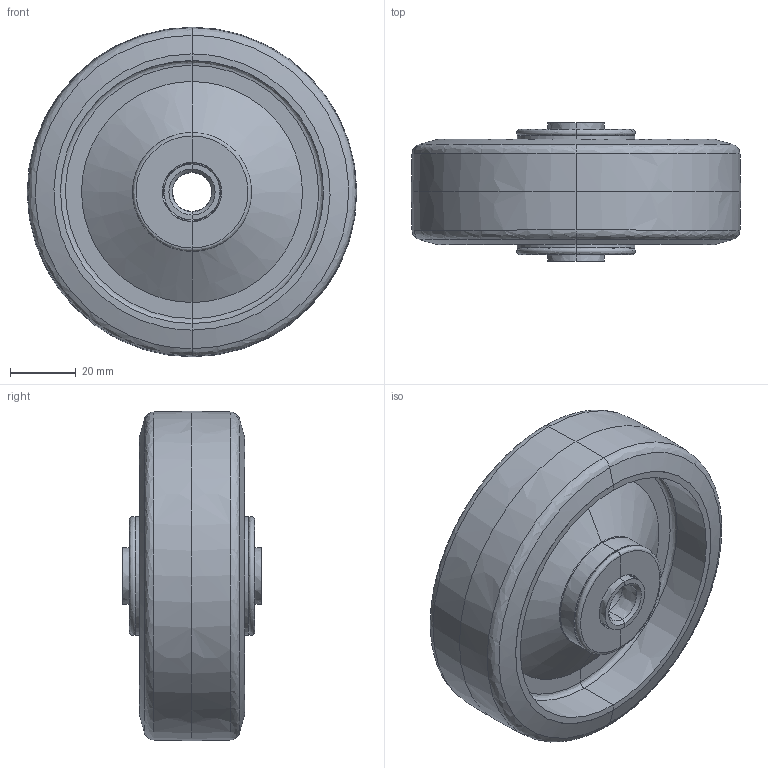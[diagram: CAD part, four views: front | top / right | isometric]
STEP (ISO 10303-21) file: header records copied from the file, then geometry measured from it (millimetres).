
FILE_DESCRIPTION (( 'STEP AP214' ), '1' );
FILE_NAME ('P-100W.STEP', '2025-01-28T07:28:19', ( 'sakai' ), ( 'Hewlett-Packard' ), 'SwSTEP 2.0', 'SolidWorks 2010', '' );
FILE_SCHEMA (( 'AUTOMOTIVE_DESIGN' ));
Length unit declared in the file: millimetre
Products named in the file (7): P-100W-10; P-100W-11; P-100W-12; P-100W-13; P-100W-14; P-100W-15; P-100W
Assembly tree (6 placements, depth 2):
  P-100W
    P-100W-13
    P-100W-12
    P-100W-14
    P-100W-10
    P-100W-11
    P-100W-15
Bounding box: 100 x 42 x 100 mm (x, y, z)
Volume: 114410.6 mm3; surface area: 75312.2 mm2
Topology: 30 solids, 30 shells, 394 faces, 1044 edges, 612 vertices
Faces by surface type: bspline 372, plane 22
Entity records: 95111 total; most frequent: CARTESIAN_POINT 84734, ORIENTED_EDGE 1928, EDGE_CURVE 964, B_SPLINE_CURVE_WITH_KNOTS 868, VERTEX_POINT 612, EDGE_LOOP 396, FACE_OUTER_BOUND 394, ADVANCED_FACE 394
